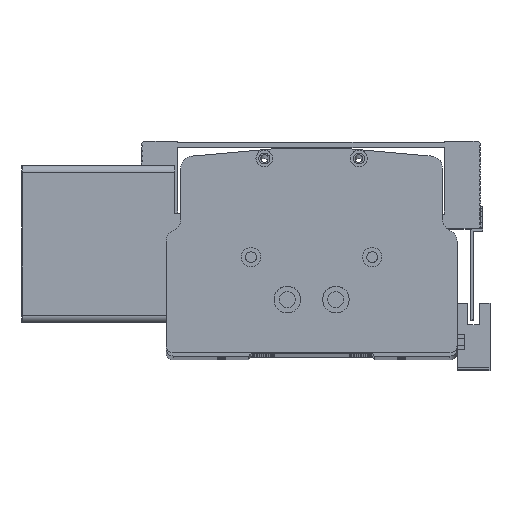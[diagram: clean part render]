
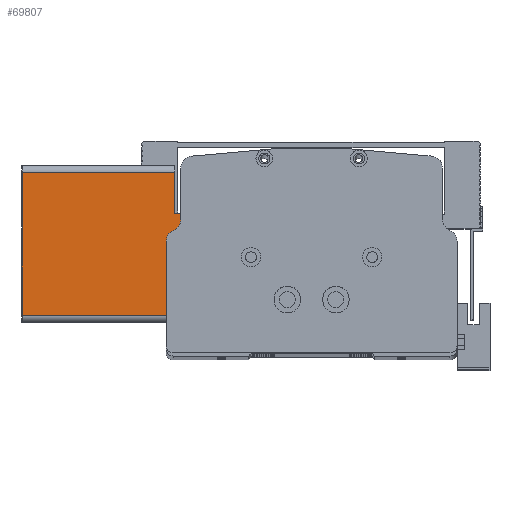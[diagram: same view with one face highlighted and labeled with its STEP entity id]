
A CAD part, top view. The second image highlights one B-rep face of the part: STEP entity #69807.
In plain terms, the highlighted planar face has unit normal (0, 0, 1) as drawn and (-1, 0, 0) by its records, which use the part's own axes.
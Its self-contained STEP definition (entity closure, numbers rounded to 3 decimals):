
#1734 = ORIENTED_EDGE ( 'NONE', *, *, #51249, .T. ) ;
#2398 = LINE ( 'NONE', #11732, #113568 ) ;
#6684 = EDGE_CURVE ( 'NONE', #91810, #32812, #102317, .T. ) ;
#7374 = VECTOR ( 'NONE', #29016, 1000. ) ;
#10443 = VERTEX_POINT ( 'NONE', #61953 ) ;
#11732 = CARTESIAN_POINT ( 'NONE',  ( 0., 80.26, 63. ) ) ;
#15848 = EDGE_CURVE ( 'NONE', #18475, #75414, #79308, .T. ) ;
#18475 = VERTEX_POINT ( 'NONE', #69489 ) ;
#19885 = PLANE ( 'NONE',  #29643 ) ;
#21146 = FACE_OUTER_BOUND ( 'NONE', #60436, .T. ) ;
#29016 = DIRECTION ( 'NONE',  ( 0., -1., 0. ) ) ;
#29385 = CARTESIAN_POINT ( 'NONE',  ( 0., 45., 63. ) ) ;
#29643 = AXIS2_PLACEMENT_3D ( 'NONE', #105094, #30644, #106015 ) ;
#30644 = DIRECTION ( 'NONE',  ( 1., 0., 0. ) ) ;
#31029 = ORIENTED_EDGE ( 'NONE', *, *, #133314, .T. ) ;
#32812 = VERTEX_POINT ( 'NONE', #93450 ) ;
#44989 = DIRECTION ( 'NONE',  ( 0., 1., 0. ) ) ;
#51249 = EDGE_CURVE ( 'NONE', #130830, #75414, #70897, .T. ) ;
#54076 = LINE ( 'NONE', #103735, #76038 ) ;
#56812 = ORIENTED_EDGE ( 'NONE', *, *, #15848, .F. ) ;
#57031 = CARTESIAN_POINT ( 'NONE',  ( 0., 62., 87. ) ) ;
#59049 = ORIENTED_EDGE ( 'NONE', *, *, #125179, .T. ) ;
#60436 = EDGE_LOOP ( 'NONE', ( #83749, #121945, #59049, #31029, #69878, #68091, #1734, #56812 ) ) ;
#61953 = CARTESIAN_POINT ( 'NONE',  ( 0., 62., 0. ) ) ;
#65705 = VERTEX_POINT ( 'NONE', #29385 ) ;
#68091 = ORIENTED_EDGE ( 'NONE', *, *, #114926, .F. ) ;
#69489 = CARTESIAN_POINT ( 'NONE',  ( 0., 45., 73. ) ) ;
#69807 = ADVANCED_FACE ( 'NONE', ( #21146 ), #19885, .F. ) ;
#69817 = CARTESIAN_POINT ( 'NONE',  ( 0., 45., 63. ) ) ;
#69878 = ORIENTED_EDGE ( 'NONE', *, *, #6684, .T. ) ;
#70463 = EDGE_CURVE ( 'NONE', #106940, #65705, #2398, .T. ) ;
#70897 = LINE ( 'NONE', #57031, #124775 ) ;
#73680 = VECTOR ( 'NONE', #111646, 1000. ) ;
#75283 = EDGE_CURVE ( 'NONE', #65705, #18475, #114851, .T. ) ;
#75414 = VERTEX_POINT ( 'NONE', #137908 ) ;
#76038 = VECTOR ( 'NONE', #82520, 1000. ) ;
#79184 = CARTESIAN_POINT ( 'NONE',  ( 0., 3., 87. ) ) ;
#79217 = DIRECTION ( 'NONE',  ( 0., 0., -1. ) ) ;
#79308 = LINE ( 'NONE', #109525, #136434 ) ;
#80172 = CARTESIAN_POINT ( 'NONE',  ( 0., 3., 0. ) ) ;
#80651 = DIRECTION ( 'NONE',  ( 0., 0., 1. ) ) ;
#81925 = LINE ( 'NONE', #107181, #135718 ) ;
#82520 = DIRECTION ( 'NONE',  ( 0., -1., 0. ) ) ;
#83749 = ORIENTED_EDGE ( 'NONE', *, *, #75283, .F. ) ;
#89810 = LINE ( 'NONE', #93534, #7374 ) ;
#91810 = VERTEX_POINT ( 'NONE', #80172 ) ;
#93450 = CARTESIAN_POINT ( 'NONE',  ( 0., 3., 87. ) ) ;
#93534 = CARTESIAN_POINT ( 'NONE',  ( 0., 0., 0. ) ) ;
#98008 = CARTESIAN_POINT ( 'NONE',  ( 0., 62., 63. ) ) ;
#102317 = LINE ( 'NONE', #79184, #73680 ) ;
#103735 = CARTESIAN_POINT ( 'NONE',  ( 0., 0., 87. ) ) ;
#105094 = CARTESIAN_POINT ( 'NONE',  ( 0., 0., 87. ) ) ;
#106015 = DIRECTION ( 'NONE',  ( 0., 0., -1. ) ) ;
#106940 = VERTEX_POINT ( 'NONE', #98008 ) ;
#107181 = CARTESIAN_POINT ( 'NONE',  ( 0., 62., 87. ) ) ;
#107914 = CARTESIAN_POINT ( 'NONE',  ( 0., 62., 87. ) ) ;
#109525 = CARTESIAN_POINT ( 'NONE',  ( 0., 80.26, 73. ) ) ;
#111646 = DIRECTION ( 'NONE',  ( 0., 0., 1. ) ) ;
#113568 = VECTOR ( 'NONE', #119076, 1000. ) ;
#114851 = LINE ( 'NONE', #69817, #136590 ) ;
#114926 = EDGE_CURVE ( 'NONE', #130830, #32812, #54076, .T. ) ;
#118065 = DIRECTION ( 'NONE',  ( 0., 0., -1. ) ) ;
#119076 = DIRECTION ( 'NONE',  ( 0., -1., 0. ) ) ;
#121945 = ORIENTED_EDGE ( 'NONE', *, *, #70463, .F. ) ;
#124775 = VECTOR ( 'NONE', #79217, 1000. ) ;
#125179 = EDGE_CURVE ( 'NONE', #106940, #10443, #81925, .T. ) ;
#130830 = VERTEX_POINT ( 'NONE', #107914 ) ;
#133314 = EDGE_CURVE ( 'NONE', #10443, #91810, #89810, .T. ) ;
#135718 = VECTOR ( 'NONE', #118065, 1000. ) ;
#136434 = VECTOR ( 'NONE', #44989, 1000. ) ;
#136590 = VECTOR ( 'NONE', #80651, 1000. ) ;
#137908 = CARTESIAN_POINT ( 'NONE',  ( 0., 62., 73. ) ) ;
